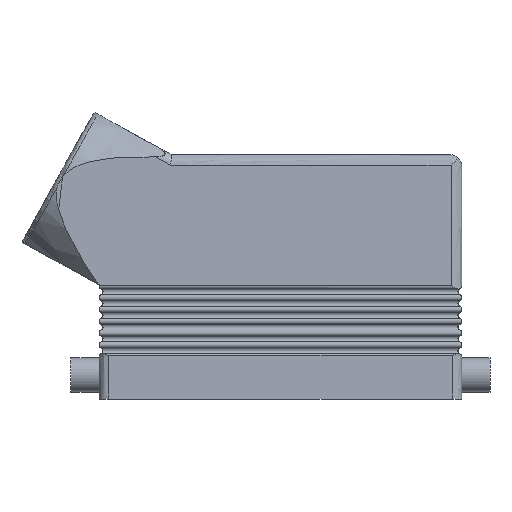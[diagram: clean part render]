
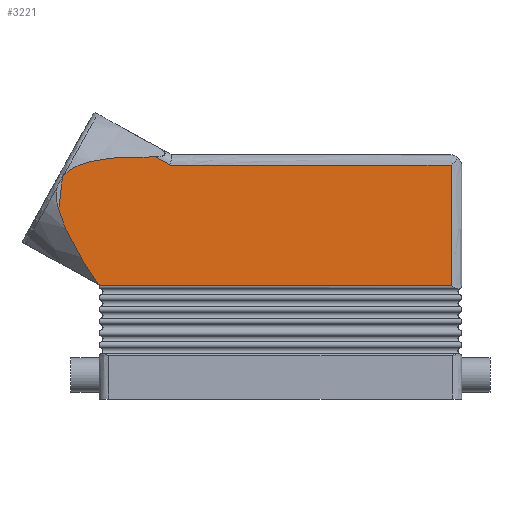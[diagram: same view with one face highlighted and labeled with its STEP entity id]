
A CAD part, top view. The second image highlights one B-rep face of the part: STEP entity #3221.
In plain terms, the highlighted planar face has unit normal (0, 0.019, 1).
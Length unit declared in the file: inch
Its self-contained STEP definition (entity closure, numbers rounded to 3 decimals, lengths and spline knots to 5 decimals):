
#765 = CARTESIAN_POINT ( 'NONE',  ( -0.91456, 2.37206, 0.80202 ) ) ;
#1732 = CARTESIAN_POINT ( 'NONE',  ( 1.73055, 2.37206, 0.80202 ) ) ;
#3079 = EDGE_CURVE ( 'NONE', #3117, #3080, #5122, .T. ) ;
#3080 = VERTEX_POINT ( 'NONE', #5123 ) ;
#3117 = VERTEX_POINT ( 'NONE', #5468 ) ;
#3119 = EDGE_CURVE ( 'NONE', #3120, #3117, #5470, .T. ) ;
#3120 = VERTEX_POINT ( 'NONE', #5461 ) ;
#3154 = EDGE_CURVE ( 'NONE', #3155, #3678, #5490, .T. ) ;
#3155 = VERTEX_POINT ( 'NONE', #5489 ) ;
#3164 = EDGE_CURVE ( 'NONE', #3678, #3792, #5373, .T. ) ;
#3196 = ORIENTED_EDGE ( 'NONE', *, *, #3220, .T. ) ;
#3197 = ORIENTED_EDGE ( 'NONE', *, *, #3119, .T. ) ;
#3198 = ORIENTED_EDGE ( 'NONE', *, *, #3079, .T. ) ;
#3199 = ORIENTED_EDGE ( 'NONE', *, *, #3200, .T. ) ;
#3200 = EDGE_CURVE ( 'NONE', #3080, #3201, #5597, .T. ) ;
#3201 = VERTEX_POINT ( 'NONE', #5596 ) ;
#3202 = ORIENTED_EDGE ( 'NONE', *, *, #3203, .T. ) ;
#3203 = EDGE_CURVE ( 'NONE', #3201, #3204, #5598, .T. ) ;
#3204 = VERTEX_POINT ( 'NONE', #5588 ) ;
#3205 = ORIENTED_EDGE ( 'NONE', *, *, #3206, .T. ) ;
#3206 = EDGE_CURVE ( 'NONE', #3204, #3207, #5581, .T. ) ;
#3207 = VERTEX_POINT ( 'NONE', #5580 ) ;
#3208 = ORIENTED_EDGE ( 'NONE', *, *, #3280, .T. ) ;
#3220 = EDGE_CURVE ( 'NONE', #3792, #3120, #5774, .T. ) ;
#3221 = ADVANCED_FACE ( 'NONE', ( #5779 ), #5770, .T. ) ;
#3222 = EDGE_LOOP ( 'NONE', ( #3196, #3197, #3198, #3199, #3202, #3205, #3208, #4534, #4537, #4439, #4440 ) ) ;
#3280 = EDGE_CURVE ( 'NONE', #3207, #4533, #5952, .T. ) ;
#3678 = VERTEX_POINT ( 'NONE', #1732 ) ;
#3792 = VERTEX_POINT ( 'NONE', #765 ) ;
#4439 = ORIENTED_EDGE ( 'NONE', *, *, #3154, .T. ) ;
#4440 = ORIENTED_EDGE ( 'NONE', *, *, #3164, .T. ) ;
#4533 = VERTEX_POINT ( 'NONE', #6243 ) ;
#4534 = ORIENTED_EDGE ( 'NONE', *, *, #4535, .T. ) ;
#4535 = EDGE_CURVE ( 'NONE', #4533, #4536, #6249, .T. ) ;
#4536 = VERTEX_POINT ( 'NONE', #6241 ) ;
#4537 = ORIENTED_EDGE ( 'NONE', *, *, #4538, .F. ) ;
#4538 = EDGE_CURVE ( 'NONE', #3155, #4536, #6229, .T. ) ;
#5119 = CARTESIAN_POINT ( 'NONE',  ( -1.35277, 2.45913, 0.80039 ) ) ;
#5120 = CARTESIAN_POINT ( 'NONE',  ( -1.27187, 2.45752, 0.80042 ) ) ;
#5122 = B_SPLINE_CURVE_WITH_KNOTS ( 'NONE', 3,
 ( #5120, #5119, #5261, #5260, #5259, #5258, #5257, #5256, #5255, #5254, #5253, #5252, #5251, #5250, #5249, #5248, #5247, #5246, #5245, #5244 ),
 .UNSPECIFIED., .F., .F.,
 ( 4, 2, 2, 2, 2, 2, 2, 2, 2, 4 ),
 ( 0.00491, 0.01106, 0.01721, 0.02029, 0.02183, 0.02337, 0.02644, 0.02798, 0.02875, 0.02952 ),
 .UNSPECIFIED. ) ;
#5123 = CARTESIAN_POINT ( 'NONE',  ( -2.20273, 2.26362, 0.80405 ) ) ;
#5244 = CARTESIAN_POINT ( 'NONE',  ( -2.20273, 2.26362, 0.80405 ) ) ;
#5245 = CARTESIAN_POINT ( 'NONE',  ( -2.1961, 2.27149, 0.80391 ) ) ;
#5246 = CARTESIAN_POINT ( 'NONE',  ( -2.18897, 2.27908, 0.80376 ) ) ;
#5247 = CARTESIAN_POINT ( 'NONE',  ( -2.17416, 2.29337, 0.8035 ) ) ;
#5248 = CARTESIAN_POINT ( 'NONE',  ( -2.16644, 2.30012, 0.80337 ) ) ;
#5249 = CARTESIAN_POINT ( 'NONE',  ( -2.14244, 2.31931, 0.80301 ) ) ;
#5250 = CARTESIAN_POINT ( 'NONE',  ( -2.12529, 2.33074, 0.8028 ) ) ;
#5251 = CARTESIAN_POINT ( 'NONE',  ( -2.07157, 2.36153, 0.80222 ) ) ;
#5252 = CARTESIAN_POINT ( 'NONE',  ( -2.03384, 2.37701, 0.80193 ) ) ;
#5253 = CARTESIAN_POINT ( 'NONE',  ( -1.97569, 2.39609, 0.80157 ) ) ;
#5254 = CARTESIAN_POINT ( 'NONE',  ( -1.95603, 2.40174, 0.80147 ) ) ;
#5255 = CARTESIAN_POINT ( 'NONE',  ( -1.91629, 2.41188, 0.80128 ) ) ;
#5256 = CARTESIAN_POINT ( 'NONE',  ( -1.89624, 2.41637, 0.80119 ) ) ;
#5257 = CARTESIAN_POINT ( 'NONE',  ( -1.83621, 2.42837, 0.80097 ) ) ;
#5258 = CARTESIAN_POINT ( 'NONE',  ( -1.79609, 2.43448, 0.80085 ) ) ;
#5259 = CARTESIAN_POINT ( 'NONE',  ( -1.67556, 2.44915, 0.80058 ) ) ;
#5260 = CARTESIAN_POINT ( 'NONE',  ( -1.59498, 2.45413, 0.80048 ) ) ;
#5261 = CARTESIAN_POINT ( 'NONE',  ( -1.43359, 2.45917, 0.80039 ) ) ;
#5369 = CARTESIAN_POINT ( 'NONE',  ( -0.91456, 2.37206, 0.80202 ) ) ;
#5370 = CARTESIAN_POINT ( 'NONE',  ( -0.03286, 2.37206, 0.80202 ) ) ;
#5371 = CARTESIAN_POINT ( 'NONE',  ( 0.84885, 2.37206, 0.80202 ) ) ;
#5372 = CARTESIAN_POINT ( 'NONE',  ( 1.73055, 2.37206, 0.80202 ) ) ;
#5373 = B_SPLINE_CURVE_WITH_KNOTS ( 'NONE', 3,
 ( #5372, #5371, #5370, #5369 ),
 .UNSPECIFIED., .F., .F.,
 ( 4, 4 ),
 ( 0.03952, 1. ),
 .UNSPECIFIED. ) ;
#5461 = CARTESIAN_POINT ( 'NONE',  ( -1.11758, 2.37206, 0.80202 ) ) ;
#5462 = DIRECTION ( 'NONE',  ( -0.875, 0.484, -0.009 ) ) ;
#5463 = VECTOR ( 'NONE', #5462, 39.37008 ) ;
#5464 = CARTESIAN_POINT ( 'NONE',  ( -2.53877, 3.15921, 0.78728 ) ) ;
#5468 = CARTESIAN_POINT ( 'NONE',  ( -1.27187, 2.45752, 0.80042 ) ) ;
#5470 = LINE ( 'NONE', #5464, #5463 ) ;
#5485 = CARTESIAN_POINT ( 'NONE',  ( 1.73055, 2.37206, 0.80202 ) ) ;
#5486 = CARTESIAN_POINT ( 'NONE',  ( 1.73055, 1.96471, 0.80965 ) ) ;
#5487 = CARTESIAN_POINT ( 'NONE',  ( 1.73055, 1.55735, 0.81728 ) ) ;
#5488 = CARTESIAN_POINT ( 'NONE',  ( 1.73055, 1.15, 0.82491 ) ) ;
#5489 = CARTESIAN_POINT ( 'NONE',  ( 1.73055, 1.15, 0.82491 ) ) ;
#5490 = B_SPLINE_CURVE_WITH_KNOTS ( 'NONE', 3,
 ( #5488, #5487, #5486, #5485 ),
 .UNSPECIFIED., .F., .F.,
 ( 4, 4 ),
 ( 0., 1. ),
 .UNSPECIFIED. ) ;
#5568 = CARTESIAN_POINT ( 'NONE',  ( -1.84796, 1.1641, 0.82465 ) ) ;
#5569 = CARTESIAN_POINT ( 'NONE',  ( -1.88867, 1.22368, 0.82353 ) ) ;
#5570 = CARTESIAN_POINT ( 'NONE',  ( -1.92855, 1.2838, 0.8224 ) ) ;
#5571 = CARTESIAN_POINT ( 'NONE',  ( -2.00584, 1.40562, 0.82012 ) ) ;
#5572 = CARTESIAN_POINT ( 'NONE',  ( -2.04332, 1.46738, 0.81897 ) ) ;
#5573 = CARTESIAN_POINT ( 'NONE',  ( -2.11415, 1.59308, 0.81661 ) ) ;
#5574 = CARTESIAN_POINT ( 'NONE',  ( -2.14748, 1.65684, 0.81542 ) ) ;
#5575 = CARTESIAN_POINT ( 'NONE',  ( -2.19183, 1.75497, 0.81358 ) ) ;
#5576 = CARTESIAN_POINT ( 'NONE',  ( -2.20566, 1.78811, 0.81296 ) ) ;
#5577 = CARTESIAN_POINT ( 'NONE',  ( -2.23051, 1.8556, 0.81169 ) ) ;
#5578 = CARTESIAN_POINT ( 'NONE',  ( -2.24157, 1.88995, 0.81105 ) ) ;
#5579 = CARTESIAN_POINT ( 'NONE',  ( -2.25041, 1.92528, 0.81039 ) ) ;
#5580 = CARTESIAN_POINT ( 'NONE',  ( -1.84796, 1.1641, 0.82465 ) ) ;
#5581 = B_SPLINE_CURVE_WITH_KNOTS ( 'NONE', 3,
 ( #5579, #5578, #5577, #5576, #5575, #5574, #5573, #5572, #5571, #5570, #5569, #5568 ),
 .UNSPECIFIED., .F., .F.,
 ( 4, 2, 2, 2, 2, 4 ),
 ( 0.0384, 0.04113, 0.04385, 0.0493, 0.05475, 0.0602 ),
 .UNSPECIFIED. ) ;
#5588 = CARTESIAN_POINT ( 'NONE',  ( -2.25041, 1.92528, 0.81039 ) ) ;
#5589 = DIRECTION ( 'NONE',  ( -0.12, -0.993, 0.019 ) ) ;
#5590 = VECTOR ( 'NONE', #5589, 39.37008 ) ;
#5591 = CARTESIAN_POINT ( 'NONE',  ( -1.87809, 5.00662, 0.75268 ) ) ;
#5592 = CARTESIAN_POINT ( 'NONE',  ( -2.21075, 2.25345, 0.80424 ) ) ;
#5593 = CARTESIAN_POINT ( 'NONE',  ( -2.20818, 2.25692, 0.80418 ) ) ;
#5594 = CARTESIAN_POINT ( 'NONE',  ( -2.20552, 2.26032, 0.80411 ) ) ;
#5595 = CARTESIAN_POINT ( 'NONE',  ( -2.20273, 2.26362, 0.80405 ) ) ;
#5596 = CARTESIAN_POINT ( 'NONE',  ( -2.21075, 2.25345, 0.80424 ) ) ;
#5597 = B_SPLINE_CURVE_WITH_KNOTS ( 'NONE', 3,
 ( #5595, #5594, #5593, #5592 ),
 .UNSPECIFIED., .F., .F.,
 ( 4, 4 ),
 ( 0., 0.00033 ),
 .UNSPECIFIED. ) ;
#5598 = LINE ( 'NONE', #5591, #5590 ) ;
#5766 = DIRECTION ( 'NONE',  ( 0., -1., 0.019 ) ) ;
#5767 = DIRECTION ( 'NONE',  ( 0., 0.019, 1. ) ) ;
#5768 = CARTESIAN_POINT ( 'NONE',  ( -2.62235, 2.48, 0.8 ) ) ;
#5769 = AXIS2_PLACEMENT_3D ( 'NONE', #5768, #5767, #5766 ) ;
#5770 = PLANE ( 'NONE',  #5769 ) ;
#5771 = DIRECTION ( 'NONE',  ( -1., 0., 0. ) ) ;
#5772 = VECTOR ( 'NONE', #5771, 39.37008 ) ;
#5773 = CARTESIAN_POINT ( 'NONE',  ( -1.11758, 2.37206, 0.80202 ) ) ;
#5774 = LINE ( 'NONE', #5773, #5772 ) ;
#5779 = FACE_OUTER_BOUND ( 'NONE', #3222, .T. ) ;
#5951 = CARTESIAN_POINT ( 'NONE',  ( -3.22286, 1.92561, 0.81038 ) ) ;
#5952 = LINE ( 'NONE', #5951, #6136 ) ;
#6135 = DIRECTION ( 'NONE',  ( 0.875, -0.484, 0.009 ) ) ;
#6136 = VECTOR ( 'NONE', #6135, 39.37008 ) ;
#6228 = DIRECTION ( 'NONE',  ( 0., -1., 0.019 ) ) ;
#6229 = LINE ( 'NONE', #6233, #6232 ) ;
#6231 = DIRECTION ( 'NONE',  ( -1., 0., 0. ) ) ;
#6232 = VECTOR ( 'NONE', #6231, 39.37008 ) ;
#6233 = CARTESIAN_POINT ( 'NONE',  ( 1.84266, 1.15, 0.82491 ) ) ;
#6241 = CARTESIAN_POINT ( 'NONE',  ( -1.84055, 1.15, 0.82491 ) ) ;
#6243 = CARTESIAN_POINT ( 'NONE',  ( -1.84055, 1.16, 0.82472 ) ) ;
#6247 = VECTOR ( 'NONE', #6228, 39.37008 ) ;
#6248 = CARTESIAN_POINT ( 'NONE',  ( -1.84055, 2.47913, 0.80002 ) ) ;
#6249 = LINE ( 'NONE', #6248, #6247 ) ;
